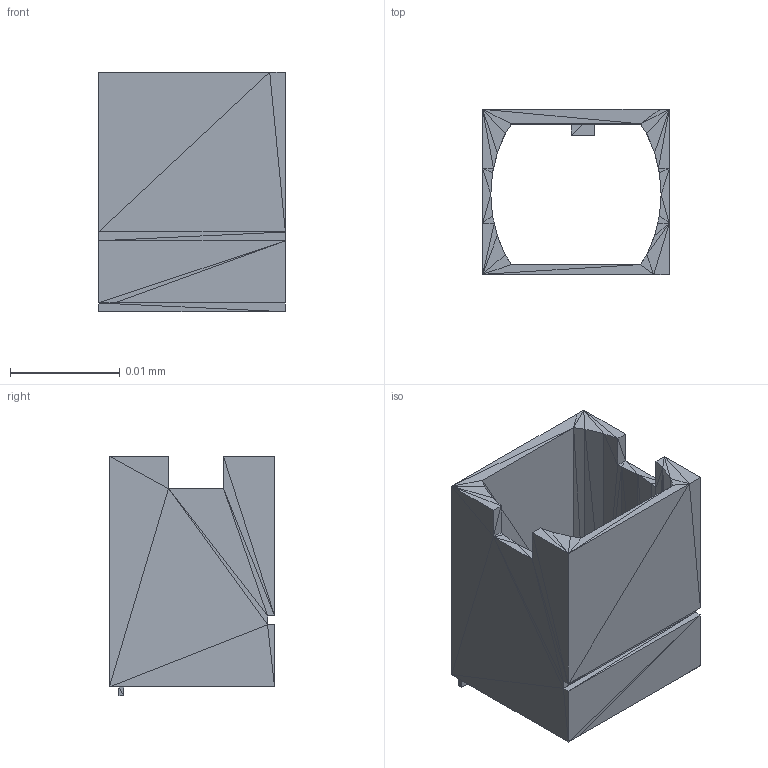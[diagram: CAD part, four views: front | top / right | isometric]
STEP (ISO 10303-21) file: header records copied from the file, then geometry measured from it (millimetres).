
FILE_DESCRIPTION((' Model'),'2;1');
FILE_NAME(' Shape Model','2026-05-29T17:26:10',(''),( ''),' ','','Unknown');
FILE_SCHEMA(('AUTOMOTIVE_DESIGN { 1 0 10303 214 1 1 1 1 }'));
Length unit declared in the file: millimetre
Products named in the file (4):  STEP translator 7.5 1;  STEP translator 7.5 1.1;  STEP translator 7.5 1.2;  STEP translator 7.5 1.3
Assembly tree (3 placements, depth 2):
   STEP translator 7.5 1
     STEP translator 7.5 1.1
     STEP translator 7.5 1.2
     STEP translator 7.5 1.3
Bounding box: 0.02 x 0.01 x 0.02 mm (x, y, z)
Surface area: 0 mm2 (no closed solid volume)
Topology: 0 solids, 3 shells, 168 faces, 252 edges, 88 vertices
Faces by surface type: plane 168
Entity records: 6384 total; most frequent: CARTESIAN_POINT 1268, DIRECTION 848, ORIENTED_EDGE 504, LINE 504, VECTOR 504, PCURVE 504, DEFINITIONAL_REPRESENTATION 504, EDGE_CURVE 252
